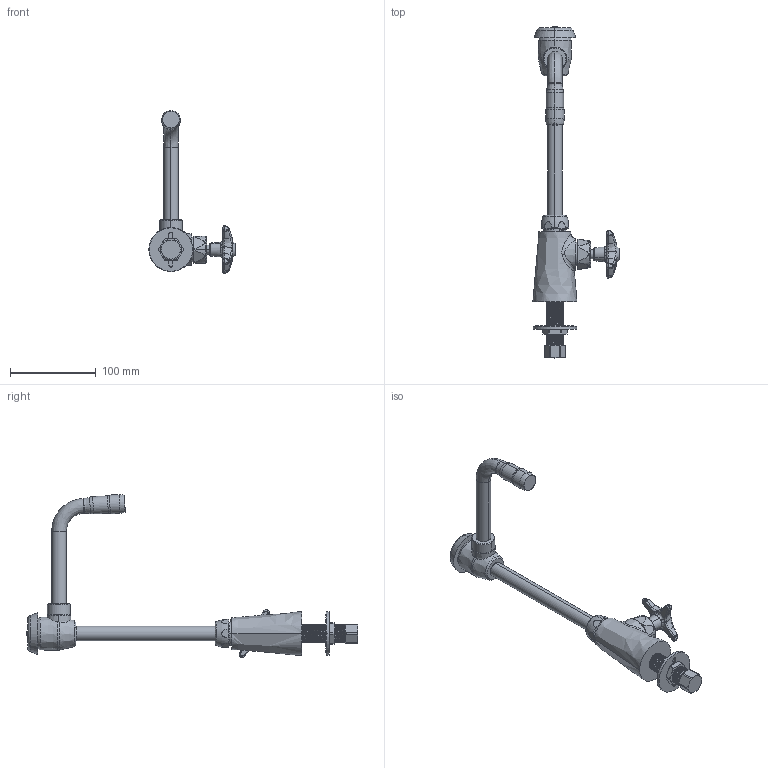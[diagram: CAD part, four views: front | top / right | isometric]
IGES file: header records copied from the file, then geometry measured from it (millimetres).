
Start section:  PTC IGES file: LWS1-A23-E.igs
Global section: file name: LWS1-A23-E.igs; native system: Creo Parametric by PTC Inc.; preprocessor: 2014500; author: usch_engrender; organization: Unknown; date: 20151202.153524; units: inch
Bounding box: 100.81 x 387.93 x 190.3 mm (x, y, z)
Volume: 334004.8 mm3; surface area: 76471 mm2
Topology: 1 solids, 6 shells, 442 faces, 1067 edges, 656 vertices
Faces by surface type: revolution 231, bspline 211
